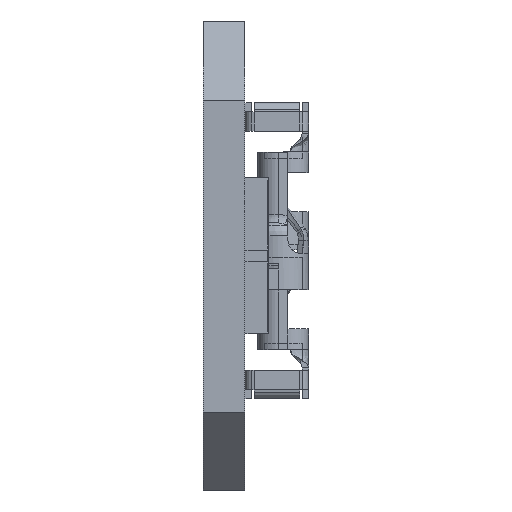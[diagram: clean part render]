
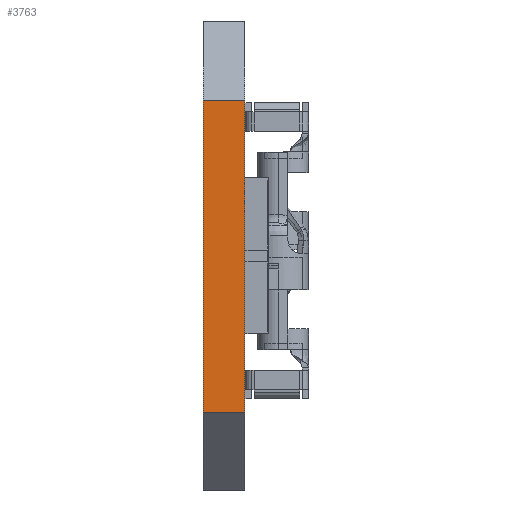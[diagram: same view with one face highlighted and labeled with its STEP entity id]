
A CAD part, left-side view. The second image highlights one B-rep face of the part: STEP entity #3763.
In plain terms, the highlighted planar face has unit normal (-1, 0, 0).
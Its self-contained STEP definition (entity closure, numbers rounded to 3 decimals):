
#292=LINE('',#5193,#597);
#343=LINE('',#5344,#648);
#365=LINE('',#5404,#670);
#366=LINE('',#5405,#671);
#597=VECTOR('',#4282,1000.);
#648=VECTOR('',#4383,1000.);
#670=VECTOR('',#4441,1000.);
#671=VECTOR('',#4442,1000.);
#1033=ORIENTED_EDGE('',*,*,#1953,.T.);
#1034=ORIENTED_EDGE('',*,*,#1920,.T.);
#1035=ORIENTED_EDGE('',*,*,#1954,.T.);
#1036=ORIENTED_EDGE('',*,*,#1845,.F.);
#1845=EDGE_CURVE('',#2311,#2312,#292,.T.);
#1920=EDGE_CURVE('',#2387,#2386,#343,.T.);
#1953=EDGE_CURVE('',#2311,#2387,#365,.T.);
#1954=EDGE_CURVE('',#2386,#2312,#366,.T.);
#2311=VERTEX_POINT('',#5192);
#2312=VERTEX_POINT('',#5194);
#2386=VERTEX_POINT('',#5343);
#2387=VERTEX_POINT('',#5345);
#2714=EDGE_LOOP('',(#1033,#1034,#1035,#1036));
#2914=FACE_BOUND('',#2714,.T.);
#3100=PLANE('',#4002);
#3763=ADVANCED_FACE('',(#2914),#3100,.T.);
#4002=AXIS2_PLACEMENT_3D('',#5403,#4439,#4440);
#4282=DIRECTION('',(0.,0.,1.));
#4383=DIRECTION('',(0.,0.,1.));
#4439=DIRECTION('',(-1.,0.,0.));
#4440=DIRECTION('',(0.,0.,1.));
#4441=DIRECTION('',(0.,-1.,0.));
#4442=DIRECTION('',(0.,1.,0.));
#5192=CARTESIAN_POINT('',(-72.199,0.,-38.633));
#5193=CARTESIAN_POINT('',(-72.199,0.,-39.633));
#5194=CARTESIAN_POINT('',(-72.199,0.,-26.633));
#5343=CARTESIAN_POINT('',(-72.199,-1.6,-26.633));
#5344=CARTESIAN_POINT('',(-72.199,-1.6,-39.633));
#5345=CARTESIAN_POINT('',(-72.199,-1.6,-38.633));
#5403=CARTESIAN_POINT('',(-72.199,-1.6,-39.633));
#5404=CARTESIAN_POINT('',(-72.199,278.652,-38.633));
#5405=CARTESIAN_POINT('',(-72.199,-1.6,-26.633));
